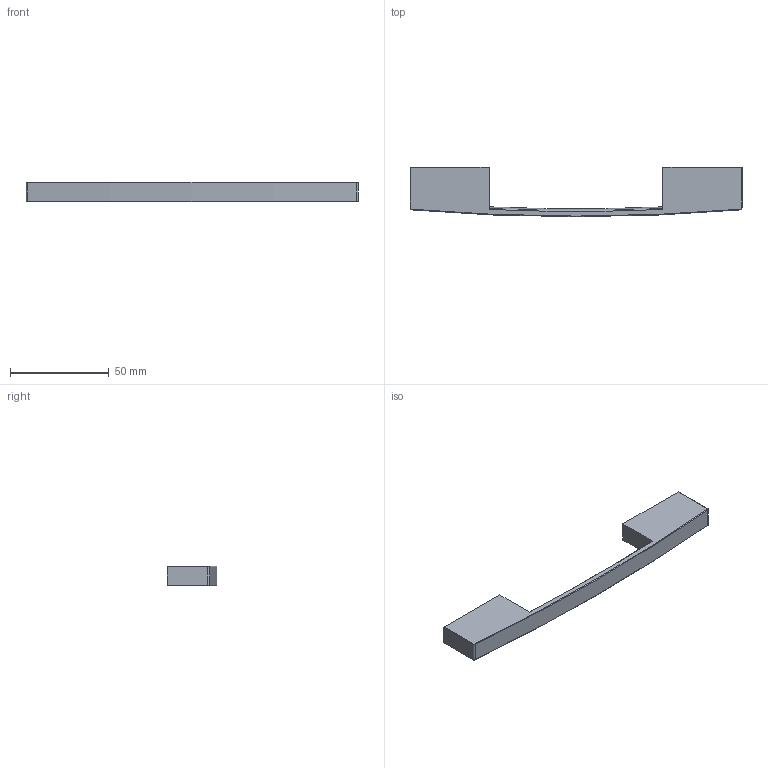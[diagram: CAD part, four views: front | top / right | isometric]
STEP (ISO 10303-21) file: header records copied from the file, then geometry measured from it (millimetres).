
FILE_DESCRIPTION( ( '' ), '1' );
FILE_NAME( 'C:/Documents and Settings/Sachin/Desktop/Sheet 10_1/stp/9113501.stp', '2013-10-22T11:41:44', ( '' ), ( '' ), ' ', ' ', ' ' );
FILE_SCHEMA( ( 'CONFIG_CONTROL_DESIGN' ) );
Length unit declared in the file: millimetre
Products named in the file (1): 1
Bounding box: 168 x 25 x 10 mm (x, y, z)
Volume: 12682.3 mm3; surface area: 12077.4 mm2
Topology: 1 solids, 1 shells, 49 faces, 123 edges, 82 vertices
Faces by surface type: plane 24, cylinder 19, torus 6
Entity records: 1812 total; most frequent: CARTESIAN_POINT 601, ORIENTED_EDGE 246, DIRECTION 232, EDGE_CURVE 123, AXIS2_PLACEMENT_3D 83, VERTEX_POINT 82, LINE 66, VECTOR 66
